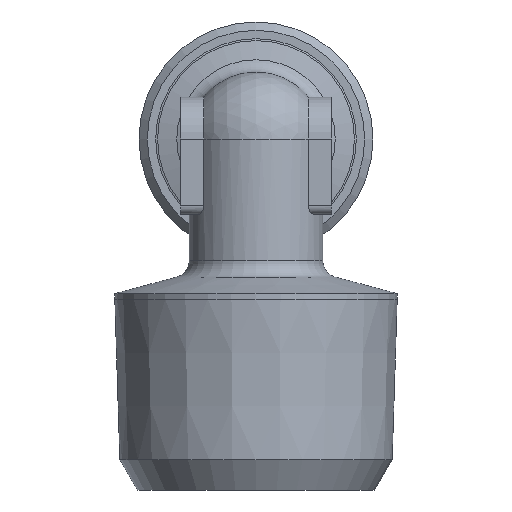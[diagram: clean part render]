
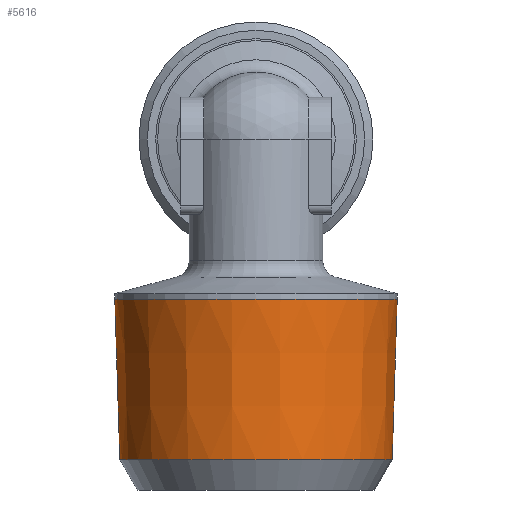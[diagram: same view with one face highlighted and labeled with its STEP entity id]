
A CAD part, left-side view. The second image highlights one B-rep face of the part: STEP entity #5616.
In plain terms, the highlighted conical face has half-angle 1.79 degrees and reference radius 8.447 mm.
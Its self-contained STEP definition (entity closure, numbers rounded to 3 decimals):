
#1774=CONICAL_SURFACE('',#5450,8.447,1.79);
#1855=ORIENTED_EDGE('',*,*,#2327,.F.);
#1856=ORIENTED_EDGE('',*,*,#2328,.T.);
#2150=CIRCLE('',#5449,8.147);
#2151=CIRCLE('',#5451,8.447);
#2214=VERTEX_POINT('',#3149);
#2215=VERTEX_POINT('',#3152);
#2327=EDGE_CURVE('',#2214,#2214,#2150,.T.);
#2328=EDGE_CURVE('',#2215,#2215,#2151,.T.);
#2490=EDGE_LOOP('',(#1855));
#2491=EDGE_LOOP('',(#1856));
#2601=FACE_BOUND('',#2490,.T.);
#2602=FACE_BOUND('',#2491,.T.);
#2748=DIRECTION('',(0.,-1.,0.));
#2749=DIRECTION('',(0.,0.,8.147));
#2750=DIRECTION('',(0.,1.,0.));
#2751=DIRECTION('',(0.,0.,1.));
#2752=DIRECTION('',(0.,-1.,0.));
#2753=DIRECTION('',(0.,0.,8.447));
#3149=CARTESIAN_POINT('',(10.994,10.578,8.147));
#3150=CARTESIAN_POINT('',(10.994,10.578,0.));
#3151=CARTESIAN_POINT('',(10.994,20.178,0.));
#3152=CARTESIAN_POINT('',(10.994,20.178,8.447));
#3153=CARTESIAN_POINT('',(10.994,20.178,0.));
#5449=AXIS2_PLACEMENT_3D('',#3150,#2748,#2749);
#5450=AXIS2_PLACEMENT_3D('',#3151,#2750,#2751);
#5451=AXIS2_PLACEMENT_3D('',#3153,#2752,#2753);
#5616=ADVANCED_FACE('',(#2601,#2602),#1774,.T.);
